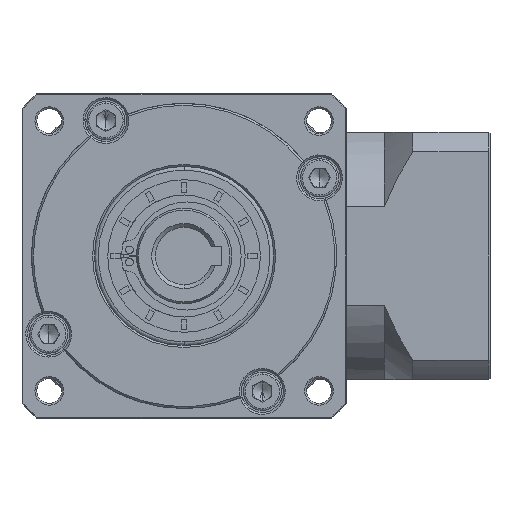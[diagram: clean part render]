
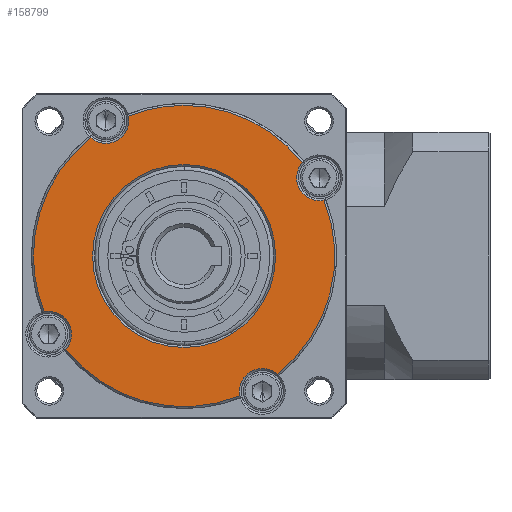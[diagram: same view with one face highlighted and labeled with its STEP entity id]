
A CAD part, left-side view. The second image highlights one B-rep face of the part: STEP entity #158799.
In plain terms, the highlighted planar face has unit normal (-1, 0, 0).
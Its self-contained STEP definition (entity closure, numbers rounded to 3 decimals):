
#2711 = CIRCLE ( 'NONE', #112693, 6. ) ;
#3256 = CARTESIAN_POINT ( 'NONE',  ( -97.713, -9.957, -118.584 ) ) ;
#4785 = VERTEX_POINT ( 'NONE', #144474 ) ;
#7068 = ORIENTED_EDGE ( 'NONE', *, *, #38825, .F. ) ;
#8298 = CARTESIAN_POINT ( 'NONE',  ( -97.713, 21.051, -143.054 ) ) ;
#9213 = ORIENTED_EDGE ( 'NONE', *, *, #72249, .T. ) ;
#10119 = CARTESIAN_POINT ( 'NONE',  ( -97.713, 25.55, -139.084 ) ) ;
#11548 = CARTESIAN_POINT ( 'NONE',  ( -97.713, -45.464, -104.084 ) ) ;
#11719 = DIRECTION ( 'NONE',  ( 0., -1., 0. ) ) ;
#13011 = DIRECTION ( 'NONE',  ( 0., -1., 0. ) ) ;
#14019 = ORIENTED_EDGE ( 'NONE', *, *, #124470, .F. ) ;
#14046 = VERTEX_POINT ( 'NONE', #109284 ) ;
#15067 = ORIENTED_EDGE ( 'NONE', *, *, #115560, .T. ) ;
#16376 = DIRECTION ( 'NONE',  ( 0., 0., 1. ) ) ;
#20139 = DIRECTION ( 'NONE',  ( 1., 0., 0. ) ) ;
#23284 = DIRECTION ( 'NONE',  ( 0., 0., -1. ) ) ;
#23401 = DIRECTION ( 'NONE',  ( 1., 0., 0. ) ) ;
#23792 = VERTEX_POINT ( 'NONE', #158683 ) ;
#24019 = DIRECTION ( 'NONE',  ( -1., 0., 0. ) ) ;
#24042 = ORIENTED_EDGE ( 'NONE', *, *, #128372, .T. ) ;
#25212 = CARTESIAN_POINT ( 'NONE',  ( -97.713, 14.512, -87.576 ) ) ;
#25582 = CARTESIAN_POINT ( 'NONE',  ( -97.713, -33.957, -118.584 ) ) ;
#28008 = EDGE_CURVE ( 'NONE', #51979, #130378, #131707, .T. ) ;
#28340 = CARTESIAN_POINT ( 'NONE',  ( -97.713, -45.464, -98.084 ) ) ;
#28583 = AXIS2_PLACEMENT_3D ( 'NONE', #60835, #152178, #73972 ) ;
#30517 = AXIS2_PLACEMENT_3D ( 'NONE', #28340, #119832, #41510 ) ;
#31199 = DIRECTION ( 'NONE',  ( 1., 0., 0. ) ) ;
#36254 = AXIS2_PLACEMENT_3D ( 'NONE', #3256, #94648, #16376 ) ;
#36599 = PLANE ( 'NONE',  #140959 ) ;
#37879 = VERTEX_POINT ( 'NONE', #67911 ) ;
#38825 = EDGE_CURVE ( 'NONE', #51979, #105522, #74733, .T. ) ;
#41119 = DIRECTION ( 'NONE',  ( 1., 0., 0. ) ) ;
#41510 = DIRECTION ( 'NONE',  ( 0., 0., -1. ) ) ;
#42158 = AXIS2_PLACEMENT_3D ( 'NONE', #147107, #68891, #160242 ) ;
#43836 = AXIS2_PLACEMENT_3D ( 'NONE', #119416, #41119, #132455 ) ;
#47737 = VERTEX_POINT ( 'NONE', #25212 ) ;
#49911 = CIRCLE ( 'NONE', #42158, 39.5 ) ;
#51979 = VERTEX_POINT ( 'NONE', #69109 ) ;
#52861 = CIRCLE ( 'NONE', #95474, 6. ) ;
#53812 = CIRCLE ( 'NONE', #154157, 39.5 ) ;
#53949 = DIRECTION ( 'NONE',  ( 1., 0., 0. ) ) ;
#58728 = DIRECTION ( 'NONE',  ( 1., 0., 0. ) ) ;
#59425 = CIRCLE ( 'NONE', #90882, 24. ) ;
#60620 = AXIS2_PLACEMENT_3D ( 'NONE', #136971, #58728, #150111 ) ;
#60835 = CARTESIAN_POINT ( 'NONE',  ( -97.713, -9.957, -118.584 ) ) ;
#61219 = EDGE_CURVE ( 'NONE', #130378, #23792, #153222, .T. ) ;
#63038 = ORIENTED_EDGE ( 'NONE', *, *, #101889, .F. ) ;
#64678 = CARTESIAN_POINT ( 'NONE',  ( -97.713, 14.043, -118.584 ) ) ;
#67911 = CARTESIAN_POINT ( 'NONE',  ( -97.713, 26.738, -133.203 ) ) ;
#68132 = ORIENTED_EDGE ( 'NONE', *, *, #28008, .T. ) ;
#68891 = DIRECTION ( 'NONE',  ( 1., 0., 0. ) ) ;
#69109 = CARTESIAN_POINT ( 'NONE',  ( -97.713, -46.653, -103.965 ) ) ;
#69312 = VERTEX_POINT ( 'NONE', #8298 ) ;
#72064 = ORIENTED_EDGE ( 'NONE', *, *, #155325, .T. ) ;
#72233 = VERTEX_POINT ( 'NONE', #25582 ) ;
#72249 = EDGE_CURVE ( 'NONE', #72233, #137636, #98719, .T. ) ;
#72488 = EDGE_CURVE ( 'NONE', #37879, #14046, #53812, .T. ) ;
#73664 = CARTESIAN_POINT ( 'NONE',  ( -97.713, 10.543, -83.077 ) ) ;
#73880 = CIRCLE ( 'NONE', #96628, 39.5 ) ;
#73972 = DIRECTION ( 'NONE',  ( 0., 0., 1. ) ) ;
#74733 = CIRCLE ( 'NONE', #36254, 39.5 ) ;
#76673 = VERTEX_POINT ( 'NONE', #123091 ) ;
#79019 = FACE_BOUND ( 'NONE', #142873, .T. ) ;
#84161 = ORIENTED_EDGE ( 'NONE', *, *, #167347, .T. ) ;
#86840 = DIRECTION ( 'NONE',  ( 0., 0., -1. ) ) ;
#88189 = CARTESIAN_POINT ( 'NONE',  ( -97.713, -9.957, -79.084 ) ) ;
#88307 = CIRCLE ( 'NONE', #97663, 6. ) ;
#90019 = DIRECTION ( 'NONE',  ( 1., 0., 0. ) ) ;
#90882 = AXIS2_PLACEMENT_3D ( 'NONE', #168124, #90019, #11719 ) ;
#91318 = DIRECTION ( 'NONE',  ( 1., 0., 0. ) ) ;
#94648 = DIRECTION ( 'NONE',  ( 1., 0., 0. ) ) ;
#95474 = AXIS2_PLACEMENT_3D ( 'NONE', #10119, #101550, #23284 ) ;
#96144 = AXIS2_PLACEMENT_3D ( 'NONE', #169440, #91318, #13011 ) ;
#96628 = AXIS2_PLACEMENT_3D ( 'NONE', #132201, #53949, #145291 ) ;
#97663 = AXIS2_PLACEMENT_3D ( 'NONE', #73664, #164922, #86840 ) ;
#98357 = CARTESIAN_POINT ( 'NONE',  ( -97.713, -30.457, -154.091 ) ) ;
#98719 = CIRCLE ( 'NONE', #96144, 24. ) ;
#101550 = DIRECTION ( 'NONE',  ( 1., 0., 0. ) ) ;
#101664 = CARTESIAN_POINT ( 'NONE',  ( -97.713, 10.543, -83.077 ) ) ;
#101889 = EDGE_CURVE ( 'NONE', #118341, #23792, #104999, .T. ) ;
#102281 = CARTESIAN_POINT ( 'NONE',  ( -97.713, -9.957, -118.584 ) ) ;
#104999 = CIRCLE ( 'NONE', #28583, 39.5 ) ;
#105522 = VERTEX_POINT ( 'NONE', #154569 ) ;
#109284 = CARTESIAN_POINT ( 'NONE',  ( -97.713, 29.543, -118.584 ) ) ;
#109516 = CARTESIAN_POINT ( 'NONE',  ( -97.713, -9.957, -118.584 ) ) ;
#111563 = DIRECTION ( 'NONE',  ( 0., 0., -1. ) ) ;
#112693 = AXIS2_PLACEMENT_3D ( 'NONE', #98357, #20139, #111563 ) ;
#114831 = DIRECTION ( 'NONE',  ( 0., 0., -1. ) ) ;
#115473 = DIRECTION ( 'NONE',  ( 0., 0., -1. ) ) ;
#115560 = EDGE_CURVE ( 'NONE', #76673, #105522, #2711, .T. ) ;
#118341 = VERTEX_POINT ( 'NONE', #88189 ) ;
#119416 = CARTESIAN_POINT ( 'NONE',  ( -97.713, -45.464, -98.084 ) ) ;
#119832 = DIRECTION ( 'NONE',  ( 1., 0., 0. ) ) ;
#120027 = EDGE_CURVE ( 'NONE', #4785, #47737, #143358, .T. ) ;
#121736 = EDGE_LOOP ( 'NONE', ( #14019, #72064, #168724, #122179, #133387, #84161, #140399, #15067, #7068, #68132, #124739, #63038 ) ) ;
#122179 = ORIENTED_EDGE ( 'NONE', *, *, #123933, .F. ) ;
#122648 = DIRECTION ( 'NONE',  ( 0., 1., 0. ) ) ;
#123091 = CARTESIAN_POINT ( 'NONE',  ( -97.713, -24.576, -155.279 ) ) ;
#123933 = EDGE_CURVE ( 'NONE', #14046, #47737, #73880, .T. ) ;
#124470 = EDGE_CURVE ( 'NONE', #133041, #118341, #149073, .T. ) ;
#124739 = ORIENTED_EDGE ( 'NONE', *, *, #61219, .T. ) ;
#128372 = EDGE_CURVE ( 'NONE', #137636, #72233, #59425, .T. ) ;
#130378 = VERTEX_POINT ( 'NONE', #11548 ) ;
#130825 = AXIS2_PLACEMENT_3D ( 'NONE', #101664, #23401, #114831 ) ;
#131707 = CIRCLE ( 'NONE', #43836, 6. ) ;
#132201 = CARTESIAN_POINT ( 'NONE',  ( -97.713, -9.957, -118.584 ) ) ;
#132455 = DIRECTION ( 'NONE',  ( 0., 0., -1. ) ) ;
#133041 = VERTEX_POINT ( 'NONE', #158374 ) ;
#133387 = ORIENTED_EDGE ( 'NONE', *, *, #72488, .F. ) ;
#136971 = CARTESIAN_POINT ( 'NONE',  ( -97.713, -9.957, -118.584 ) ) ;
#137636 = VERTEX_POINT ( 'NONE', #64678 ) ;
#140399 = ORIENTED_EDGE ( 'NONE', *, *, #162918, .F. ) ;
#140959 = AXIS2_PLACEMENT_3D ( 'NONE', #102281, #24019, #115473 ) ;
#142873 = EDGE_LOOP ( 'NONE', ( #9213, #24042 ) ) ;
#143358 = CIRCLE ( 'NONE', #130825, 6. ) ;
#144474 = CARTESIAN_POINT ( 'NONE',  ( -97.713, 10.543, -89.077 ) ) ;
#145291 = DIRECTION ( 'NONE',  ( 0., 1., 0. ) ) ;
#147107 = CARTESIAN_POINT ( 'NONE',  ( -97.713, -9.957, -118.584 ) ) ;
#148466 = FACE_OUTER_BOUND ( 'NONE', #121736, .T. ) ;
#149073 = CIRCLE ( 'NONE', #60620, 39.5 ) ;
#150111 = DIRECTION ( 'NONE',  ( 0., 0., 1. ) ) ;
#152178 = DIRECTION ( 'NONE',  ( 1., 0., 0. ) ) ;
#153222 = CIRCLE ( 'NONE', #30517, 6. ) ;
#154157 = AXIS2_PLACEMENT_3D ( 'NONE', #109516, #31199, #122648 ) ;
#154569 = CARTESIAN_POINT ( 'NONE',  ( -97.713, -34.427, -149.592 ) ) ;
#155325 = EDGE_CURVE ( 'NONE', #133041, #4785, #88307, .T. ) ;
#158374 = CARTESIAN_POINT ( 'NONE',  ( -97.713, 4.661, -81.889 ) ) ;
#158683 = CARTESIAN_POINT ( 'NONE',  ( -97.713, -40.965, -94.115 ) ) ;
#158799 = ADVANCED_FACE ( 'NONE', ( #148466, #79019 ), #36599, .T. ) ;
#160242 = DIRECTION ( 'NONE',  ( 0., 0., 1. ) ) ;
#162918 = EDGE_CURVE ( 'NONE', #76673, #69312, #49911, .T. ) ;
#164922 = DIRECTION ( 'NONE',  ( 1., 0., 0. ) ) ;
#167347 = EDGE_CURVE ( 'NONE', #37879, #69312, #52861, .T. ) ;
#168124 = CARTESIAN_POINT ( 'NONE',  ( -97.713, -9.957, -118.584 ) ) ;
#168724 = ORIENTED_EDGE ( 'NONE', *, *, #120027, .T. ) ;
#169440 = CARTESIAN_POINT ( 'NONE',  ( -97.713, -9.957, -118.584 ) ) ;
